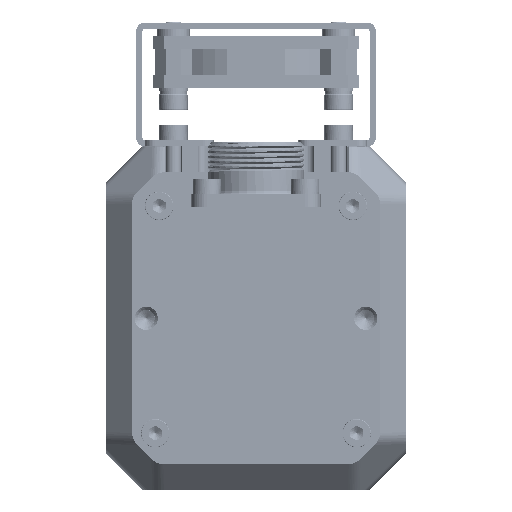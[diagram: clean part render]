
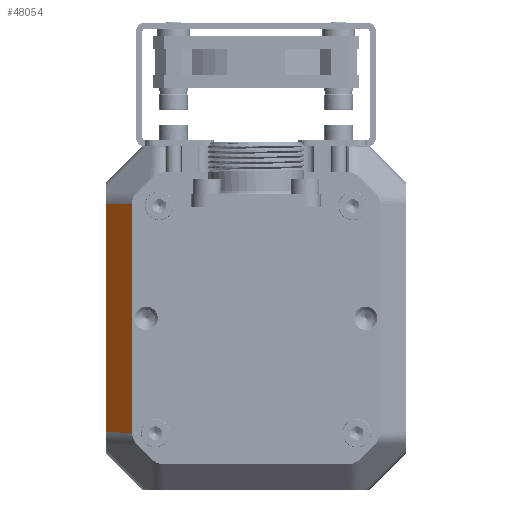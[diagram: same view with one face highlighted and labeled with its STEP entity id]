
A CAD part, front view. The second image highlights one B-rep face of the part: STEP entity #48054.
In plain terms, the highlighted planar face has unit normal (-0.707, -0.707, 0) as drawn and (0.707, 0, 0.707) by its records, which use the part's own axes.
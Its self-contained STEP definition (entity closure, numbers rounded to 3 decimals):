
#41870=DIRECTION('',(0.,1.,0.));
#41871=VECTOR('',#41870,44.094);
#41872=CARTESIAN_POINT('',(29.,-55.297,-5.));
#41873=LINE('',#41872,#41871);
#42719=CARTESIAN_POINT('',(29.,-55.297,-5.));
#42729=DIRECTION('',(-0.707,-0.02,0.707));
#42730=VECTOR('',#42729,7.072);
#42731=CARTESIAN_POINT('',(29.,-55.297,-5.));
#42732=LINE('',#42731,#42730);
#42736=DIRECTION('',(0.,1.,0.));
#42737=VECTOR('',#42736,44.371);
#42738=CARTESIAN_POINT('',(24.,-55.435,0.));
#42739=LINE('',#42738,#42737);
#42743=DIRECTION('',(0.707,-0.02,-0.707));
#42744=VECTOR('',#42743,7.072);
#42745=CARTESIAN_POINT('',(24.,-11.065,0.));
#42746=LINE('',#42745,#42744);
#42750=CARTESIAN_POINT('',(24.,-11.065,0.));
#44357=VERTEX_POINT('',#42750);
#44358=CARTESIAN_POINT('',(24.,-55.435,0.));
#44359=VERTEX_POINT('',#44358);
#45024=VERTEX_POINT('',#42719);
#45025=CARTESIAN_POINT('',(29.,-11.203,-5.));
#45026=VERTEX_POINT('',#45025);
#48042=CARTESIAN_POINT('',(26.5,-33.25,-2.5));
#48043=DIRECTION('',(0.707,0.,0.707));
#48044=DIRECTION('',(0.707,0.,-0.707));
#48045=AXIS2_PLACEMENT_3D('',#48042,#48043,#48044);
#48046=PLANE('',#48045);
#48047=ORIENTED_EDGE('',*,*,#47224,.F.);
#48048=ORIENTED_EDGE('',*,*,#48035,.T.);
#48049=ORIENTED_EDGE('',*,*,#45300,.T.);
#48051=ORIENTED_EDGE('',*,*,#48050,.T.);
#48052=EDGE_LOOP('',(#48047,#48048,#48049,#48051));
#48053=FACE_OUTER_BOUND('',#48052,.F.);
#45300=EDGE_CURVE('',#44359,#44357,#42739,.T.);
#47224=EDGE_CURVE('',#45024,#45026,#41873,.T.);
#48035=EDGE_CURVE('',#45024,#44359,#42732,.T.);
#48050=EDGE_CURVE('',#44357,#45026,#42746,.T.);
#48054=ADVANCED_FACE('',(#48053),#48046,.T.);
